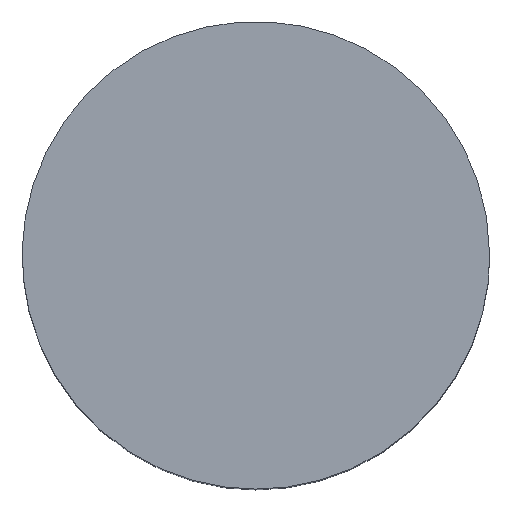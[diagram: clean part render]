
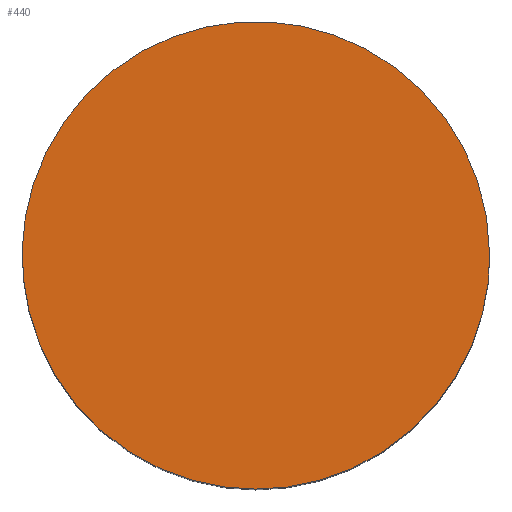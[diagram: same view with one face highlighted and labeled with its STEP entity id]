
A CAD part, top view. The second image highlights one B-rep face of the part: STEP entity #440.
In plain terms, the highlighted planar face has unit normal (0, 0, 1).
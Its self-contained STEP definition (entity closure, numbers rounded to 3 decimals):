
#230 = CARTESIAN_POINT ('', (0.75, 0., -137.3));
#240 = VERTEX_POINT ('', #230);
#250 = CARTESIAN_POINT ('', (0.75, 0., -137.3));
#260 = CARTESIAN_POINT ('', (0.75, 0.75, -137.3));
#270 = CARTESIAN_POINT ('', (0., 0.75, -137.3));
#280 = CARTESIAN_POINT ('', (-0.75, 0.75, -137.3));
#290 = CARTESIAN_POINT ('', (-0.75, 0., -137.3));
#300 = CARTESIAN_POINT ('', (-0.75, -0.75, -137.3));
#310 = CARTESIAN_POINT ('', (0., -0.75, -137.3));
#320 = CARTESIAN_POINT ('', (0.75, -0.75, -137.3));
#330 = CARTESIAN_POINT ('', (0.75, 0., -137.3));
#340 = (
   BOUNDED_CURVE ()
   B_SPLINE_CURVE (2, (#250, #260, #270, #280, #290, #300, #310, #320, #330), .UNSPECIFIED., .T., .U.)
   B_SPLINE_CURVE_WITH_KNOTS ((3, 2, 2, 2, 3), (0., 1.571, 3.142, 4.712, 6.283), .UNSPECIFIED.)
   CURVE ()
   GEOMETRIC_REPRESENTATION_ITEM ()
   RATIONAL_B_SPLINE_CURVE ((1., 0.707, 1., 0.707, 1., 0.707, 1., 0.707, 1.))
   REPRESENTATION_ITEM ('')
);
#350 = EDGE_CURVE ('', #240, #240, #340, .T.);
#360 = ORIENTED_EDGE ('', *, *, #350, .T.);
#370 = EDGE_LOOP ('', (#360));
#380 = FACE_OUTER_BOUND ('', #370, .T.);
#390 = CARTESIAN_POINT ('', (0., 1.734, -137.3));
#400 = DIRECTION ('', (0., 0., 1.));
#410 = DIRECTION ('', (-0.707, -0.707, 0.));
#420 = AXIS2_PLACEMENT_3D ('', #390, #400, #410);
#430 = PLANE ('', #420);
#440 = ADVANCED_FACE ('', (#380), #430, .T.);
